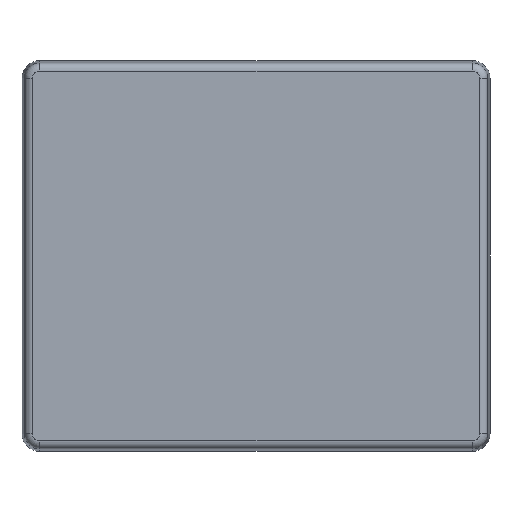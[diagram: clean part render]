
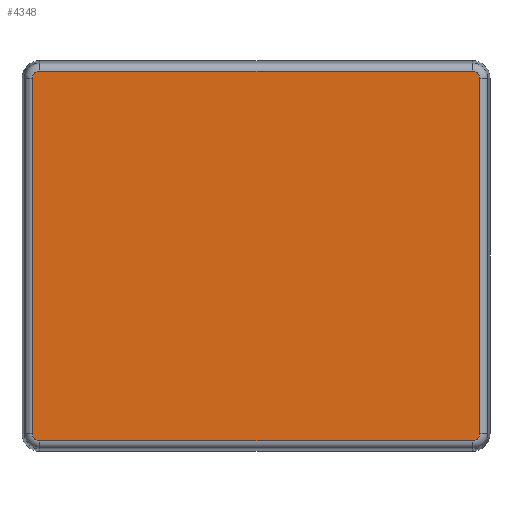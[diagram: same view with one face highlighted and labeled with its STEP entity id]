
A CAD part, front view. The second image highlights one B-rep face of the part: STEP entity #4348.
In plain terms, the highlighted planar face has unit normal (0, -1, 0).
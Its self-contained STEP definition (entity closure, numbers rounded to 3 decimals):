
#270 = ORIENTED_EDGE ( 'NONE', *, *, #6438, .T. ) ;
#718 = EDGE_CURVE ( 'NONE', #2334, #4558, #1330, .T. ) ;
#868 = CIRCLE ( 'NONE', #5155, 1.841 ) ;
#1023 = ORIENTED_EDGE ( 'NONE', *, *, #4454, .T. ) ;
#1161 = CARTESIAN_POINT ( 'NONE',  ( -57.191, -31., 45.45 ) ) ;
#1298 = CARTESIAN_POINT ( 'NONE',  ( 55.35, -31., -47.291 ) ) ;
#1320 = CARTESIAN_POINT ( 'NONE',  ( 55.35, -31., 45.45 ) ) ;
#1330 = CIRCLE ( 'NONE', #6739, 1.841 ) ;
#1421 = CARTESIAN_POINT ( 'NONE',  ( 55.35, -31., 47.291 ) ) ;
#1423 = ORIENTED_EDGE ( 'NONE', *, *, #5361, .T. ) ;
#1535 = CARTESIAN_POINT ( 'NONE',  ( -57.191, -31., 45.45 ) ) ;
#1600 = CARTESIAN_POINT ( 'NONE',  ( 57.191, -31., -45.45 ) ) ;
#1683 = ORIENTED_EDGE ( 'NONE', *, *, #718, .T. ) ;
#1939 = DIRECTION ( 'NONE',  ( 0., 0., -1. ) ) ;
#1958 = CIRCLE ( 'NONE', #2314, 1.841 ) ;
#2158 = DIRECTION ( 'NONE',  ( 0., -1., 0. ) ) ;
#2228 = DIRECTION ( 'NONE',  ( 0., 0., -1. ) ) ;
#2229 = CARTESIAN_POINT ( 'NONE',  ( -55.35, -31., 47.291 ) ) ;
#2314 = AXIS2_PLACEMENT_3D ( 'NONE', #1320, #6020, #1939 ) ;
#2334 = VERTEX_POINT ( 'NONE', #5784 ) ;
#2373 = FACE_OUTER_BOUND ( 'NONE', #3861, .T. ) ;
#2401 = CARTESIAN_POINT ( 'NONE',  ( -55.35, -31., 45.45 ) ) ;
#2733 = VERTEX_POINT ( 'NONE', #1298 ) ;
#2813 = VECTOR ( 'NONE', #3109, 1000. ) ;
#2874 = PLANE ( 'NONE',  #5388 ) ;
#2885 = CARTESIAN_POINT ( 'NONE',  ( 57.191, -31., 45.45 ) ) ;
#2889 = DIRECTION ( 'NONE',  ( 0., 0., -1. ) ) ;
#2938 = DIRECTION ( 'NONE',  ( 0., -1., 0. ) ) ;
#2988 = CARTESIAN_POINT ( 'NONE',  ( -55.35, -31., 45.45 ) ) ;
#3109 = DIRECTION ( 'NONE',  ( 1., 0., 0. ) ) ;
#3319 = VECTOR ( 'NONE', #3374, 1000. ) ;
#3374 = DIRECTION ( 'NONE',  ( -1., 0., 0. ) ) ;
#3435 = VERTEX_POINT ( 'NONE', #1600 ) ;
#3783 = CARTESIAN_POINT ( 'NONE',  ( 55.35, -31., -45.45 ) ) ;
#3861 = EDGE_LOOP ( 'NONE', ( #270, #1423, #1023, #1683, #4761, #6989, #4494, #5593 ) ) ;
#4348 = ADVANCED_FACE ( 'NONE', ( #2373 ), #2874, .T. ) ;
#4360 = DIRECTION ( 'NONE',  ( 0., 0., -1. ) ) ;
#4426 = CARTESIAN_POINT ( 'NONE',  ( -55.35, -31., -45.45 ) ) ;
#4454 = EDGE_CURVE ( 'NONE', #5292, #2334, #5822, .T. ) ;
#4462 = DIRECTION ( 'NONE',  ( 0., -1., 0. ) ) ;
#4494 = ORIENTED_EDGE ( 'NONE', *, *, #6465, .T. ) ;
#4552 = VECTOR ( 'NONE', #6999, 1000. ) ;
#4558 = VERTEX_POINT ( 'NONE', #6059 ) ;
#4574 = CARTESIAN_POINT ( 'NONE',  ( 57.191, -31., 45.45 ) ) ;
#4650 = LINE ( 'NONE', #4574, #4552 ) ;
#4683 = EDGE_CURVE ( 'NONE', #7225, #6781, #1958, .T. ) ;
#4761 = ORIENTED_EDGE ( 'NONE', *, *, #4985, .T. ) ;
#4879 = CARTESIAN_POINT ( 'NONE',  ( -55.35, -31., -47.291 ) ) ;
#4985 = EDGE_CURVE ( 'NONE', #4558, #2733, #5034, .T. ) ;
#5034 = LINE ( 'NONE', #4879, #2813 ) ;
#5087 = CARTESIAN_POINT ( 'NONE',  ( -55.35, -31., 47.291 ) ) ;
#5155 = AXIS2_PLACEMENT_3D ( 'NONE', #2401, #2938, #5833 ) ;
#5165 = CIRCLE ( 'NONE', #6639, 1.841 ) ;
#5292 = VERTEX_POINT ( 'NONE', #1535 ) ;
#5333 = DIRECTION ( 'NONE',  ( 0., -1., 0. ) ) ;
#5361 = EDGE_CURVE ( 'NONE', #5826, #5292, #868, .T. ) ;
#5388 = AXIS2_PLACEMENT_3D ( 'NONE', #2988, #5333, #2228 ) ;
#5593 = ORIENTED_EDGE ( 'NONE', *, *, #4683, .T. ) ;
#5634 = VECTOR ( 'NONE', #2889, 1000. ) ;
#5784 = CARTESIAN_POINT ( 'NONE',  ( -57.191, -31., -45.45 ) ) ;
#5822 = LINE ( 'NONE', #1161, #5634 ) ;
#5826 = VERTEX_POINT ( 'NONE', #5087 ) ;
#5831 = EDGE_CURVE ( 'NONE', #2733, #3435, #5165, .T. ) ;
#5833 = DIRECTION ( 'NONE',  ( 0., 0., -1. ) ) ;
#6020 = DIRECTION ( 'NONE',  ( 0., -1., 0. ) ) ;
#6059 = CARTESIAN_POINT ( 'NONE',  ( -55.35, -31., -47.291 ) ) ;
#6438 = EDGE_CURVE ( 'NONE', #6781, #5826, #7491, .T. ) ;
#6465 = EDGE_CURVE ( 'NONE', #3435, #7225, #4650, .T. ) ;
#6639 = AXIS2_PLACEMENT_3D ( 'NONE', #3783, #2158, #4360 ) ;
#6739 = AXIS2_PLACEMENT_3D ( 'NONE', #4426, #4462, #6804 ) ;
#6781 = VERTEX_POINT ( 'NONE', #1421 ) ;
#6804 = DIRECTION ( 'NONE',  ( 0., 0., -1. ) ) ;
#6989 = ORIENTED_EDGE ( 'NONE', *, *, #5831, .T. ) ;
#6999 = DIRECTION ( 'NONE',  ( 0., 0., 1. ) ) ;
#7225 = VERTEX_POINT ( 'NONE', #2885 ) ;
#7491 = LINE ( 'NONE', #2229, #3319 ) ;
